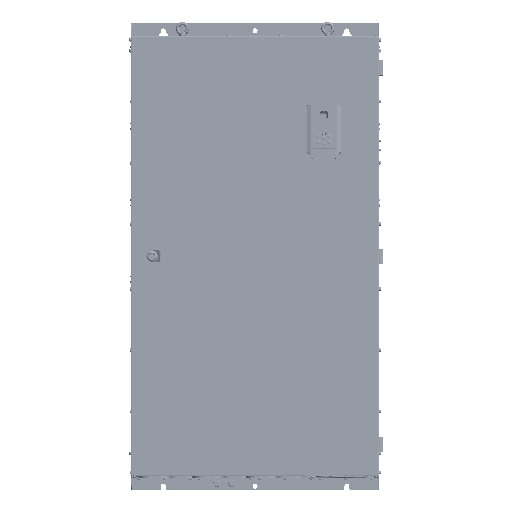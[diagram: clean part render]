
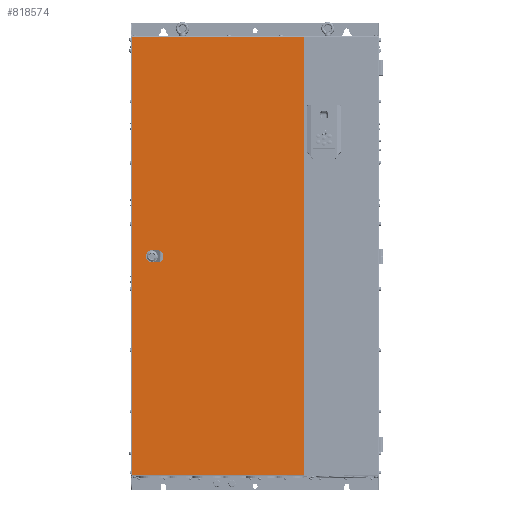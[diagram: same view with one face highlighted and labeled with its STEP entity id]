
A CAD part, top view. The second image highlights one B-rep face of the part: STEP entity #818574.
In plain terms, the highlighted planar face has unit normal (0, 0, 1).
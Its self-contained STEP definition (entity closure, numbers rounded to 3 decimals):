
#816481=DIRECTION('',(0.,-1.,0.));
#816482=VECTOR('',#816481,1145.05);
#816483=CARTESIAN_POINT('',(-322.25,1147.75,10.5));
#816484=LINE('',#816483,#816482);
#816849=DIRECTION('',(1.,0.,0.));
#816850=VECTOR('',#816849,449.25);
#816851=CARTESIAN_POINT('',(-322.25,2.7,10.5));
#816852=LINE('',#816851,#816850);
#816910=DIRECTION('',(1.,0.,0.));
#816911=VECTOR('',#816910,12.052);
#816912=CARTESIAN_POINT('',(-275.526,584.5,10.5));
#816913=LINE('',#816912,#816911);
#816917=CARTESIAN_POINT('',(-269.5,575.,10.5));
#816918=DIRECTION('',(0.,0.,1.));
#816919=DIRECTION('',(-0.536,0.844,0.));
#816920=AXIS2_PLACEMENT_3D('',#816917,#816918,#816919);
#816925=DIRECTION('',(0.,1.,0.));
#816926=VECTOR('',#816925,12.052);
#816927=CARTESIAN_POINT('',(-279.,568.974,10.5));
#816928=LINE('',#816927,#816926);
#816932=CARTESIAN_POINT('',(-269.5,575.,10.5));
#816933=DIRECTION('',(0.,0.,1.));
#816934=DIRECTION('',(-0.844,-0.536,0.));
#816935=AXIS2_PLACEMENT_3D('',#816932,#816933,#816934);
#816940=DIRECTION('',(-1.,0.,0.));
#816941=VECTOR('',#816940,12.052);
#816942=CARTESIAN_POINT('',(-263.474,565.5,10.5));
#816943=LINE('',#816942,#816941);
#816947=CARTESIAN_POINT('',(-269.5,575.,10.5));
#816948=DIRECTION('',(0.,0.,1.));
#816949=DIRECTION('',(0.536,-0.844,0.));
#816950=AXIS2_PLACEMENT_3D('',#816947,#816948,#816949);
#816955=DIRECTION('',(0.,-1.,0.));
#816956=VECTOR('',#816955,12.052);
#816957=CARTESIAN_POINT('',(-260.,581.026,10.5));
#816958=LINE('',#816957,#816956);
#816962=CARTESIAN_POINT('',(-269.5,575.,10.5));
#816963=DIRECTION('',(0.,0.,1.));
#816964=DIRECTION('',(0.844,0.536,0.));
#816965=AXIS2_PLACEMENT_3D('',#816962,#816963,#816964);
#816970=DIRECTION('',(0.,-1.,0.));
#816971=VECTOR('',#816970,1145.05);
#816972=CARTESIAN_POINT('',(127.,1147.75,10.5));
#816973=LINE('',#816972,#816971);
#817055=DIRECTION('',(1.,0.,0.));
#817056=VECTOR('',#817055,449.25);
#817057=CARTESIAN_POINT('',(-322.25,1147.75,10.5));
#817058=LINE('',#817057,#817056);
#817893=CARTESIAN_POINT('',(-322.25,1147.75,10.5));
#817894=CARTESIAN_POINT('',(-322.25,2.7,10.5));
#817895=VERTEX_POINT('',#817893);
#817896=VERTEX_POINT('',#817894);
#818006=CARTESIAN_POINT('',(-275.526,584.5,10.5));
#818007=CARTESIAN_POINT('',(-263.474,584.5,10.5));
#818008=VERTEX_POINT('',#818006);
#818009=VERTEX_POINT('',#818007);
#818010=CARTESIAN_POINT('',(-260.,581.026,10.5));
#818011=VERTEX_POINT('',#818010);
#818012=CARTESIAN_POINT('',(-260.,568.974,10.5));
#818013=VERTEX_POINT('',#818012);
#818014=CARTESIAN_POINT('',(-263.474,565.5,10.5));
#818015=VERTEX_POINT('',#818014);
#818016=CARTESIAN_POINT('',(-275.526,565.5,10.5));
#818017=VERTEX_POINT('',#818016);
#818018=CARTESIAN_POINT('',(-279.,568.974,10.5));
#818019=VERTEX_POINT('',#818018);
#818020=CARTESIAN_POINT('',(-279.,581.026,10.5));
#818021=VERTEX_POINT('',#818020);
#818038=CARTESIAN_POINT('',(127.,1147.75,10.5));
#818039=CARTESIAN_POINT('',(127.,2.7,10.5));
#818040=VERTEX_POINT('',#818038);
#818041=VERTEX_POINT('',#818039);
#818544=CARTESIAN_POINT('',(-324.5,1150.,10.5));
#818545=DIRECTION('',(0.,0.,1.));
#818546=DIRECTION('',(0.,-1.,0.));
#818547=AXIS2_PLACEMENT_3D('',#818544,#818545,#818546);
#818548=PLANE('',#818547);
#818549=ORIENTED_EDGE('',*,*,#818535,.T.);
#818550=ORIENTED_EDGE('',*,*,#818474,.F.);
#818551=ORIENTED_EDGE('',*,*,#818226,.F.);
#818553=ORIENTED_EDGE('',*,*,#818552,.T.);
#818554=EDGE_LOOP('',(#818549,#818550,#818551,#818553));
#818555=FACE_OUTER_BOUND('',#818554,.F.);
#818557=ORIENTED_EDGE('',*,*,#818556,.F.);
#818559=ORIENTED_EDGE('',*,*,#818558,.T.);
#818561=ORIENTED_EDGE('',*,*,#818560,.F.);
#818563=ORIENTED_EDGE('',*,*,#818562,.T.);
#818565=ORIENTED_EDGE('',*,*,#818564,.F.);
#818567=ORIENTED_EDGE('',*,*,#818566,.T.);
#818569=ORIENTED_EDGE('',*,*,#818568,.F.);
#818571=ORIENTED_EDGE('',*,*,#818570,.T.);
#818572=EDGE_LOOP('',(#818557,#818559,#818561,#818563,#818565,#818567,#818569,
#818571));
#818573=FACE_BOUND('',#818572,.F.);
#818574=ADVANCED_FACE('',(#818555,#818573),#818548,.T.);
#816921=CIRCLE('',#816920,11.25);
#816936=CIRCLE('',#816935,11.25);
#816951=CIRCLE('',#816950,11.25);
#816966=CIRCLE('',#816965,11.25);
#818226=EDGE_CURVE('',#817895,#817896,#816484,.T.);
#818474=EDGE_CURVE('',#817896,#818041,#816852,.T.);
#818535=EDGE_CURVE('',#818040,#818041,#816973,.T.);
#818552=EDGE_CURVE('',#817895,#818040,#817058,.T.);
#818556=EDGE_CURVE('',#818008,#818009,#816913,.T.);
#818558=EDGE_CURVE('',#818008,#818021,#816921,.T.);
#818560=EDGE_CURVE('',#818019,#818021,#816928,.T.);
#818562=EDGE_CURVE('',#818019,#818017,#816936,.T.);
#818564=EDGE_CURVE('',#818015,#818017,#816943,.T.);
#818566=EDGE_CURVE('',#818015,#818013,#816951,.T.);
#818568=EDGE_CURVE('',#818011,#818013,#816958,.T.);
#818570=EDGE_CURVE('',#818011,#818009,#816966,.T.);
